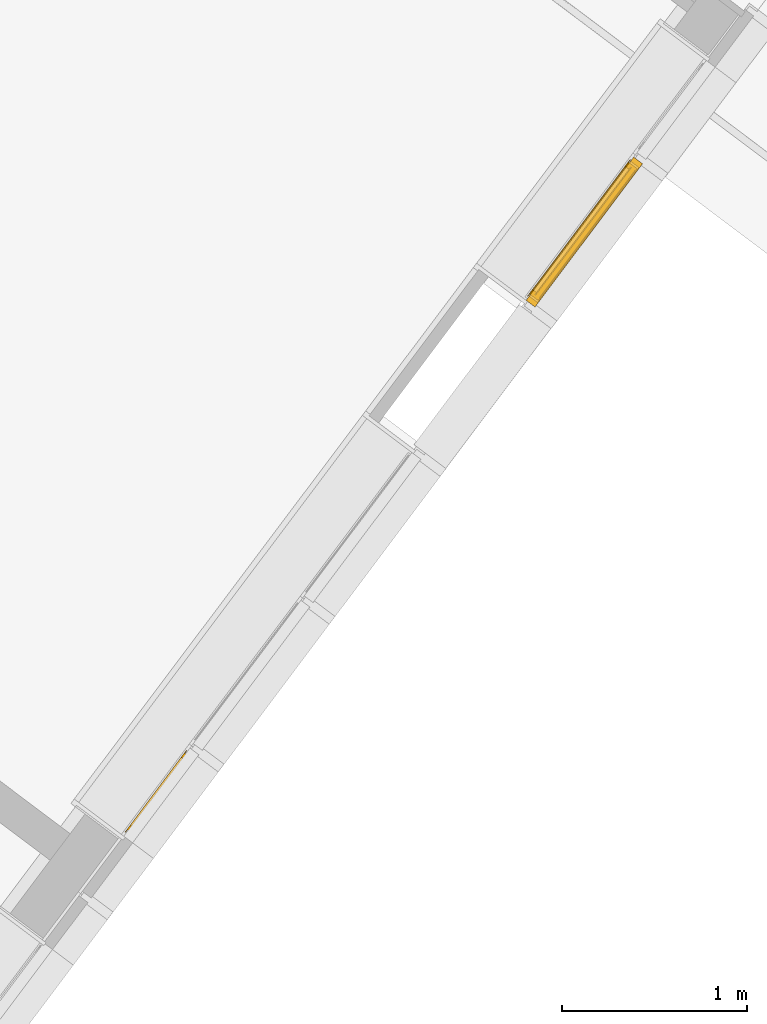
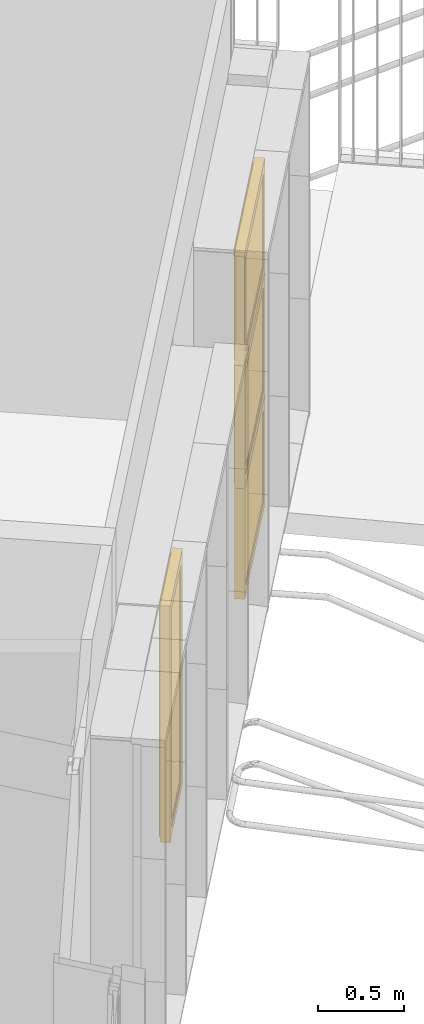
# One storey, part 228 of 243: 4 windows, 1 element without a shape of its own.
"""IFC2X3 building model written with IfcOpenShell, lengths in metres."""

from ifc_helpers import new_model, entity, si_unit, converted_unit, derived_unit, direction, frame, origin, place, context, subcontext, project, spatial, faceted_brep, source, transform, mapped, material, material_list, type_object, type_shapes, element, aggregate, save


model = new_model("IFC2X3")

# Units and contexts
model_context = context("Model", 3, precision=1e-05, world=origin(), true_north=direction((6.123031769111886e-17, 1.0)))
body_context = subcontext(model_context, "Body", "Model", "MODEL_VIEW")
ifc_project = project(units=[si_unit("LENGTHUNIT", "METRE"), si_unit("AREAUNIT", "SQUARE_METRE"), si_unit("VOLUMEUNIT", "CUBIC_METRE"), converted_unit("PLANEANGLEUNIT", "DEGREE", entity("IfcRatioMeasure", 0.017453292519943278), si_unit("PLANEANGLEUNIT", "RADIAN"), dimensions=[0, 0, 0, 0, 0, 0, 0]), si_unit("MASSUNIT", "GRAM", prefix="KILO"), derived_unit("MASSDENSITYUNIT", [(si_unit("MASSUNIT", "GRAM", prefix="KILO"), 1), (si_unit("LENGTHUNIT", "METRE"), -3)]), derived_unit("IONCONCENTRATIONUNIT", [(si_unit("MASSUNIT", "GRAM", prefix="KILO"), 1), (si_unit("LENGTHUNIT", "METRE"), -3)]), derived_unit("MOMENTOFINERTIAUNIT", [(si_unit("LENGTHUNIT", "METRE"), 4)]), si_unit("TIMEUNIT", "SECOND"), si_unit("FREQUENCYUNIT", "HERTZ"), si_unit("THERMODYNAMICTEMPERATUREUNIT", "DEGREE_CELSIUS"), derived_unit("THERMALTRANSMITTANCEUNIT", [(si_unit("MASSUNIT", "GRAM", prefix="KILO"), 1), (si_unit("THERMODYNAMICTEMPERATUREUNIT", "KELVIN"), -1), (si_unit("TIMEUNIT", "SECOND"), -3)]), derived_unit("THERMALCONDUCTANCEUNIT", [(si_unit("MASSUNIT", "GRAM", prefix="KILO"), 1), (si_unit("THERMODYNAMICTEMPERATUREUNIT", "KELVIN"), -1), (si_unit("TIMEUNIT", "SECOND"), -3), (si_unit("LENGTHUNIT", "METRE"), 1)]), derived_unit("VOLUMETRICFLOWRATEUNIT", [(si_unit("LENGTHUNIT", "METRE"), 3), (si_unit("TIMEUNIT", "SECOND"), -1)]), derived_unit("MASSFLOWRATEUNIT", [(si_unit("MASSUNIT", "GRAM", prefix="KILO"), 1), (si_unit("TIMEUNIT", "SECOND"), -1)]), derived_unit("ROTATIONALFREQUENCYUNIT", [(si_unit("TIMEUNIT", "SECOND"), -1)]), si_unit("ELECTRICCURRENTUNIT", "AMPERE"), si_unit("ELECTRICVOLTAGEUNIT", "VOLT"), si_unit("POWERUNIT", "WATT"), si_unit("FORCEUNIT", "NEWTON", prefix="KILO"), si_unit("ILLUMINANCEUNIT", "LUX"), si_unit("LUMINOUSFLUXUNIT", "LUMEN"), si_unit("LUMINOUSINTENSITYUNIT", "CANDELA"), derived_unit("USERDEFINED", [(si_unit("MASSUNIT", "GRAM", prefix="KILO"), -1), (si_unit("LENGTHUNIT", "METRE"), -2), (si_unit("TIMEUNIT", "SECOND"), 3), (si_unit("LUMINOUSFLUXUNIT", "LUMEN"), 1)]), derived_unit("USERDEFINED", [(si_unit("MASSUNIT", "GRAM", prefix="KILO"), 1), (si_unit("TIMEUNIT", "SECOND"), -3), (si_unit("LENGTHUNIT", "METRE"), 3), (si_unit("ELECTRICCURRENTUNIT", "AMPERE"), -2)]), derived_unit("SOUNDPOWERUNIT", [(si_unit("MASSUNIT", "GRAM", prefix="KILO"), 1), (si_unit("TIMEUNIT", "SECOND"), -3), (si_unit("LENGTHUNIT", "METRE"), 2)]), derived_unit("SOUNDPRESSUREUNIT", [(si_unit("MASSUNIT", "GRAM", prefix="KILO"), 1), (si_unit("LENGTHUNIT", "METRE"), -1), (si_unit("TIMEUNIT", "SECOND"), -2)]), derived_unit("LINEARVELOCITYUNIT", [(si_unit("LENGTHUNIT", "METRE"), 1), (si_unit("TIMEUNIT", "SECOND"), -1)]), si_unit("PRESSUREUNIT", "PASCAL"), derived_unit("USERDEFINED", [(si_unit("MASSUNIT", "GRAM", prefix="KILO"), 1), (si_unit("LENGTHUNIT", "METRE"), -2), (si_unit("TIMEUNIT", "SECOND"), -2)]), derived_unit("LINEARFORCEUNIT", [(si_unit("MASSUNIT", "GRAM", prefix="KILO"), 1), (si_unit("TIMEUNIT", "SECOND"), -2)]), derived_unit("PLANARFORCEUNIT", [(si_unit("MASSUNIT", "GRAM", prefix="KILO"), 1), (si_unit("LENGTHUNIT", "METRE"), -1), (si_unit("TIMEUNIT", "SECOND"), -2)]), derived_unit("SPECIFICHEATCAPACITYUNIT", [(si_unit("THERMODYNAMICTEMPERATUREUNIT", "KELVIN"), -1), (si_unit("LENGTHUNIT", "METRE"), 2), (si_unit("TIMEUNIT", "SECOND"), -2)]), derived_unit("HEATINGVALUEUNIT", [(si_unit("LENGTHUNIT", "METRE"), 2), (si_unit("TIMEUNIT", "SECOND"), -2)]), derived_unit("VAPORPERMEABILITYUNIT", [(si_unit("LENGTHUNIT", "METRE"), -1), (si_unit("TIMEUNIT", "SECOND"), 1)]), derived_unit("DYNAMICVISCOSITYUNIT", [(si_unit("MASSUNIT", "GRAM", prefix="KILO"), 1), (si_unit("TIMEUNIT", "SECOND"), -1), (si_unit("LENGTHUNIT", "METRE"), -1)]), derived_unit("THERMALEXPANSIONCOEFFICIENTUNIT", [(si_unit("THERMODYNAMICTEMPERATUREUNIT", "KELVIN"), -1)]), derived_unit("MODULUSOFELASTICITYUNIT", [(si_unit("MASSUNIT", "GRAM", prefix="KILO"), 1), (si_unit("LENGTHUNIT", "METRE"), -1), (si_unit("TIMEUNIT", "SECOND"), -2)]), derived_unit("ISOTHERMALMOISTURECAPACITYUNIT", [(si_unit("LENGTHUNIT", "METRE"), 3), (si_unit("MASSUNIT", "GRAM", prefix="KILO"), -1)]), derived_unit("MOISTUREDIFFUSIVITYUNIT", [(si_unit("TIMEUNIT", "SECOND"), -1), (si_unit("LENGTHUNIT", "METRE"), 2)])], contexts=[model_context])

# Site, building, storey
site_placement = place(None, frame((0.0, 0.0, 235.0), z_axis=(0.0, 0.0, 1.0), x_axis=(-0.7996477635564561, 0.6004693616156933, 0.0)))
site = spatial("IfcSite", under=ifc_project, at=site_placement, Name="Default", CompositionType="ELEMENT")
building_placement = place(site_placement, origin())
building = spatial("IfcBuilding", under=site, at=building_placement, CompositionType="ELEMENT")
storey_placement = place(building_placement, origin())
storey = spatial("IfcBuildingStorey", under=building, at=storey_placement, Name="P0- Escola", CompositionType="ELEMENT", Elevation=0.0)

# Curtain wall, windows
curtain_wall_type = type_object("IfcCurtainWallType", Name="Muro cortina:MC- EXT- MC2", PredefinedType="NOTDEFINED")
curtain_wall_placement = place(storey_placement, origin())
curtain_wall = element("IfcCurtainWall", 1, at=curtain_wall_placement, inside=storey, type_object=curtain_wall_type, Name="Muro cortina:MC- EXT- MC2", ObjectType="Muro cortina:MC- EXT- MC2")
ifc_material_1 = material(Name="_Vidre")
ifc_material_2 = material(Name="_Alumini- T1- Perfil")
ifc_material_list = material_list([ifc_material_1, ifc_material_2])
window_style_1 = type_object("IfcWindowStyle", Name="MC- Alu- Conjunt vidre fix- 62x60 cm:MC- Alu- Conjunt vidre fix- 62x60 cm", ConstructionType="NOTDEFINED", OperationType="NOTDEFINED", ParameterTakesPrecedence=False, Sizeable=False, material=ifc_material_list)
shared_shape_1 = source(origin(), body_context, "Body", "Brep", [
    faceted_brep([(0.4358113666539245, -0.007600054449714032, 0.048806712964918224), (0.4358113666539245, -0.03160022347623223, 0.048806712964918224), (-0.4358113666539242, -0.03160022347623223, 0.048806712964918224), (-0.4358113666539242, -0.007600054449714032, 0.048806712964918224), (0.4358113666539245, -0.007600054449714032, 0.7387000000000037), (-0.4358113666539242, -0.007600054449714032, 0.7387000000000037), (-0.4358113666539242, -0.03160022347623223, 0.7387000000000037), (0.4358113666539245, -0.03160022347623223, 0.7387000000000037)], [[[0, 1, 2, 3]], [[4, 0, 3, 5]], [[5, 3, 2, 6]], [[6, 2, 1, 7]], [[7, 1, 0, 4]], [[4, 5, 6, 7]]]),
    faceted_brep([(0.48461807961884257, -0.05999999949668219, 0.7877000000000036), (0.48461807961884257, -0.05999999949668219, 0.0), (0.48461807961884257, 0.0, 0.0), (0.48461807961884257, 0.0, 0.7877000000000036), (-0.48461807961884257, 0.0, 0.7877000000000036), (-0.48461807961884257, 0.0, 0.0), (0.42181126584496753, 0.0, 0.7248931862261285), (-0.4218112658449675, 0.0, 0.7248931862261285), (-0.42181126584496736, 0.0, 0.06280681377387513), (0.42181126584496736, 0.0, 0.06280681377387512), (-0.48461807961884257, -0.05999999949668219, 0.0), (-0.48461807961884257, -0.05999999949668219, 0.7877000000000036), (-0.4218141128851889, -0.05999999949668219, 0.72489603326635), (0.4218141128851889, -0.05999999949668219, 0.72489603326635), (0.4218141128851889, -0.05999999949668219, 0.0628039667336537), (-0.4218141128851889, -0.05999999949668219, 0.0628039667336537), (0.42181411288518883, -0.03160022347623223, 0.7248960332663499), (0.4218141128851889, -0.03160022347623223, 0.0628039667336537), (-0.4218141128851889, -0.03160022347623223, 0.0628039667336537), (-0.4218141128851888, -0.03160022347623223, 0.7248960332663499), (-0.43581136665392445, -0.03160022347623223, 0.7388932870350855), (0.43581136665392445, -0.03160022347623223, 0.7388932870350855), (0.43581136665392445, -0.03160022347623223, 0.048806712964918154), (-0.43581136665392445, -0.03160022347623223, 0.04880671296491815), (0.43581136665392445, -0.007600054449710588, 0.7388932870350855), (0.43581136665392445, -0.007600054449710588, 0.04880671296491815), (-0.43581136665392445, -0.007600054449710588, 0.048806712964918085), (-0.43581136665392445, -0.007600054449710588, 0.7388932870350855), (-0.4218112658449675, -0.007600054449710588, 0.7248931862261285), (0.4218112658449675, -0.007600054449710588, 0.7248931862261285), (0.4218112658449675, -0.007600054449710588, 0.06280681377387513), (-0.4218112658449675, -0.007600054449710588, 0.06280681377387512)], [[[0, 1, 2, 3]], [[4, 3, 2, 5], [6, 7, 8, 9]], [[1, 10, 5, 2]], [[0, 11, 10, 1], [12, 13, 14, 15]], [[16, 17, 14, 13]], [[17, 18, 15, 14]], [[16, 19, 18, 17], [20, 21, 22, 23]], [[24, 25, 22, 21]], [[25, 26, 23, 22]], [[24, 27, 26, 25], [28, 29, 30, 31]], [[6, 9, 30, 29]], [[9, 8, 31, 30]], [[10, 11, 4, 5]], [[18, 19, 12, 15]], [[26, 27, 20, 23]], [[8, 7, 28, 31]], [[11, 0, 3, 4]], [[19, 16, 13, 12]], [[27, 24, 21, 20]], [[7, 6, 29, 28]]], outer=[[True], [True, False], [True], [True, False], [True], [True], [False, True], [True], [True], [True, False], [True], [True], [True], [True], [True], [True], [True], [True], [True], [True]]),
])
type_shapes(window_style_1, [shared_shape_1])
window_1_placement = place(curtain_wall_placement, frame((28.345147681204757, -35.91480983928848, 0.03229999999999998), z_axis=(0.0, 0.0, 1.0), x_axis=(0.0, 1.0, 0.0)))
window_1 = element("IfcWindow", 2, at=window_1_placement, type_object=window_style_1, material=ifc_material_list, Name="MC- Alu- Conjunt vidre fix- 62x60 cm:MC- Alu- Conjunt vidre fix- 62x60 cm", ObjectType="MC- Alu- Conjunt vidre fix- 62x60 cm:MC- Alu- Conjunt vidre fix- 62x60 cm", OverallHeight=0.7877000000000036, OverallWidth=0.9692361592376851, context=body_context, shape_type="MappedRepresentation", body=[
    mapped(shared_shape_1, transform((0.0, 0.0, 0.0), scale=1.0)),
])
window_style_2 = type_object("IfcWindowStyle", Name="MC- Alu- Conjunt finestra basculant- 68x68 cm:MC- Alu- Conjunt finestra basculant- 68x68 cm", ConstructionType="NOTDEFINED", OperationType="NOTDEFINED", ParameterTakesPrecedence=False, Sizeable=False, material=ifc_material_list)
shared_shape_2 = source(origin(), body_context, "Body", "Brep", [
    faceted_brep([(0.2461617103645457, -0.03559830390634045, 0.051999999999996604), (-0.24616171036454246, -0.0355983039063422, 0.051999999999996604), (-0.24616171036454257, -0.011598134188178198, 0.051999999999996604), (0.24616171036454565, -0.011598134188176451, 0.051999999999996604), (0.2461617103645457, -0.03559830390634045, 1.6315527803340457), (0.24616171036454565, -0.011598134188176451, 1.6315527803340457), (-0.24616171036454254, -0.011598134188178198, 1.6315527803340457), (-0.24616171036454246, -0.0355983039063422, 1.6315527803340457)], [[[0, 1, 2, 3]], [[4, 0, 3, 5]], [[5, 3, 2, 6]], [[6, 2, 1, 7]], [[7, 1, 0, 4]], [[4, 5, 6, 7]]]),
    faceted_brep([(-0.2304608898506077, -0.009998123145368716, 1.615851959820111), (-0.23046088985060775, -0.009998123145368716, 0.06789804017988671), (-0.23046088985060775, -0.007998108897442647, 0.06789804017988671), (-0.23046088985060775, -0.007998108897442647, 1.6158519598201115), (-0.25935893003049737, -0.007998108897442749, 1.644750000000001), (0.2593589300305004, -0.007998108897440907, 1.644750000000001), (0.2593589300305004, -0.007998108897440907, 0.03899999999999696), (-0.25935893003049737, -0.007998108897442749, 0.03899999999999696), (0.2304608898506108, -0.007998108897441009, 1.6158519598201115), (0.2304608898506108, -0.007998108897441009, 0.06789804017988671), (0.2304608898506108, -0.00999812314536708, 0.06789804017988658), (0.23046088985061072, -0.00999812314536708, 1.615851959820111), (0.24616171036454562, -0.009998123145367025, 1.6315527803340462), (-0.24616171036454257, -0.009998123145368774, 1.6315527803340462), (-0.24616171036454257, -0.009998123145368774, 0.05219721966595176), (0.24616171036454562, -0.009998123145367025, 0.05219721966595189), (-0.24616171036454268, -0.040799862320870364, 1.6315527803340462), (-0.24616171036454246, -0.04079986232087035, 0.05219721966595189), (0.24616171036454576, -0.04079986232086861, 0.05219721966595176), (0.24616171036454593, -0.04079986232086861, 1.6315527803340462), (0.2304608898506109, -0.040799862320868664, 1.6158519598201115), (-0.23046088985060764, -0.0407998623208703, 1.6158519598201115), (-0.23046088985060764, -0.0407998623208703, 0.06789804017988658), (0.2304608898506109, -0.040799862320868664, 0.06789804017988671), (-0.23046088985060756, -0.06800005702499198, 1.6158519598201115), (-0.23046088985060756, -0.06800005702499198, 0.06789804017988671), (0.23046088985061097, -0.06800005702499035, 0.06789804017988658), (0.230460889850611, -0.06800005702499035, 1.6158519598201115), (0.2768628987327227, -0.0680000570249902, 1.662253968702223), (-0.27686289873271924, -0.06800005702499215, 1.662253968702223), (-0.27686289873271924, -0.06800005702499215, 0.021496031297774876), (0.2768628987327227, -0.0680000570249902, 0.021496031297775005), (-0.27686289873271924, -0.06450003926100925, 1.662253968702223), (-0.27686289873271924, -0.06450003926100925, 0.021496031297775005), (0.2768628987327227, -0.06450003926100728, 0.021496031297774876), (0.2768628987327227, -0.06450003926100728, 1.662253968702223), (0.25935893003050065, -0.06450003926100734, 1.644750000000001), (-0.25935893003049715, -0.06450003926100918, 1.644750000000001), (-0.25935893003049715, -0.06450003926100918, 0.03899999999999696), (0.25935893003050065, -0.06450003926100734, 0.03899999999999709)], [[[0, 1, 2, 3]], [[4, 5, 6, 7], [8, 3, 2, 9]], [[1, 10, 9, 2]], [[0, 11, 10, 1], [12, 13, 14, 15]], [[16, 17, 14, 13]], [[17, 18, 15, 14]], [[16, 19, 18, 17], [20, 21, 22, 23]], [[24, 25, 22, 21]], [[25, 26, 23, 22]], [[24, 27, 26, 25], [28, 29, 30, 31]], [[32, 33, 30, 29]], [[33, 34, 31, 30]], [[32, 35, 34, 33], [36, 37, 38, 39]], [[4, 7, 38, 37]], [[7, 6, 39, 38]], [[10, 11, 8, 9]], [[18, 19, 12, 15]], [[26, 27, 20, 23]], [[34, 35, 28, 31]], [[6, 5, 36, 39]], [[11, 0, 3, 8]], [[19, 16, 13, 12]], [[27, 24, 21, 20]], [[35, 32, 29, 28]], [[5, 4, 37, 36]]], outer=[[True], [True, False], [True], [False, True], [True], [True], [True, False], [True], [True], [False, True], [True], [True], [True, False], [True], [True], [True], [True], [True], [True], [True], [True], [True], [True], [True], [True]]),
    faceted_brep([(0.23544318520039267, 0.0, 1.6209431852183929), (0.2354431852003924, 0.0, 0.06280681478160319), (0.2354431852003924, -0.0040000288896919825, 0.06280681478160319), (0.23544318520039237, -0.0040000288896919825, 1.6209431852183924), (-0.23544318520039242, -0.0040000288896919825, 1.6209431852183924), (-0.2354431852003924, -0.0040000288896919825, 0.06280681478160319), (0.27084980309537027, -0.0040000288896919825, 1.6563498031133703), (-0.27084980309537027, -0.0040000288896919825, 1.6563498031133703), (-0.27084980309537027, -0.0040000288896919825, 0.02740019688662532), (0.27084980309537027, -0.0040000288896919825, 0.027400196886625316), (-0.2354431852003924, 0.0, 0.06280681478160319), (-0.23544318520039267, 0.0, 1.6209431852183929), (-0.2982499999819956, 0.0, 1.6837499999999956), (0.2982499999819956, 0.0, 1.6837499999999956), (0.2982499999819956, 0.0, 0.0), (-0.2982499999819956, 0.0, 0.0), (0.2982499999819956, -0.05999999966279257, 1.6837499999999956), (0.2982499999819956, -0.05999999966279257, 0.0), (-0.2982499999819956, -0.05999999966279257, 0.0), (-0.2982499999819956, -0.05999999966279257, 1.6837499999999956), (-0.27084980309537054, -0.05999999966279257, 1.6563498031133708), (0.27084980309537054, -0.05999999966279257, 1.6563498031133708), (0.27084980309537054, -0.05999999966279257, 0.02740019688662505), (-0.27084980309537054, -0.05999999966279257, 0.027400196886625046)], [[[0, 1, 2, 3]], [[4, 3, 2, 5], [6, 7, 8, 9]], [[1, 10, 5, 2]], [[0, 11, 10, 1], [12, 13, 14, 15]], [[16, 17, 14, 13]], [[17, 18, 15, 14]], [[16, 19, 18, 17], [20, 21, 22, 23]], [[6, 9, 22, 21]], [[9, 8, 23, 22]], [[10, 11, 4, 5]], [[18, 19, 12, 15]], [[8, 7, 20, 23]], [[11, 0, 3, 4]], [[19, 16, 13, 12]], [[7, 6, 21, 20]]], outer=[[True], [False, True], [True], [False, True], [True], [True], [True, False], [True], [True], [True], [True], [True], [True], [True], [True]]),
])
type_shapes(window_style_2, [shared_shape_2])
window_2_placement = place(curtain_wall_placement, frame((28.345147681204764, -32.10194175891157, 0.8200000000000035), z_axis=(0.0, 0.0, 1.0), x_axis=(0.0, 1.0, 0.0)))
window_2 = element("IfcWindow", 3, at=window_2_placement, type_object=window_style_2, material=ifc_material_list, Name="MC- Alu- Conjunt finestra basculant- 68x68 cm:MC- Alu- Conjunt finestra basculant- 68x68 cm", ObjectType="MC- Alu- Conjunt finestra basculant- 68x68 cm:MC- Alu- Conjunt finestra basculant- 68x68 cm", OverallHeight=1.6837499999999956, OverallWidth=0.5964999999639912, context=body_context, shape_type="MappedRepresentation", body=[
    mapped(shared_shape_2, transform((0.0, 0.0, 0.0), scale=1.0)),
])
window_style_3 = type_object("IfcWindowStyle", Name="MC- Alu- Conjunt finestra basculant- 68x68 cm:MC- Alu- Conjunt finestra basculant- 68x68 cm", ConstructionType="NOTDEFINED", OperationType="NOTDEFINED", ParameterTakesPrecedence=False, Sizeable=False, material=ifc_material_list)
shared_shape_3 = source(origin(), body_context, "Body", "Brep", [
    faceted_brep([(0.4325297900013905, -0.035598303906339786, 0.051999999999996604), (-0.4325297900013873, -0.03559830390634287, 0.051999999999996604), (-0.43252979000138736, -0.011598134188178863, 0.051999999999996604), (0.4325297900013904, -0.011598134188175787, 0.051999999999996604), (0.4325297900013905, -0.035598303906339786, 0.8228027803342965), (0.4325297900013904, -0.011598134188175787, 0.8228027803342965), (-0.4325297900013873, -0.011598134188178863, 0.8228027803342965), (-0.4325297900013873, -0.03559830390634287, 0.8228027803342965)], [[[0, 1, 2, 3]], [[4, 0, 3, 5]], [[5, 3, 2, 6]], [[6, 2, 1, 7]], [[7, 1, 0, 4]], [[4, 5, 6, 7]]]),
    faceted_brep([(-0.4168289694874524, -0.009998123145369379, 0.8071019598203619), (-0.4168289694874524, -0.00999812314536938, 0.06789804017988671), (-0.4168289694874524, -0.00799810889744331, 0.06789804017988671), (-0.4168289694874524, -0.00799810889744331, 0.8071019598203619), (-0.44572700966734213, -0.007998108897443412, 0.8360000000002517), (0.44572700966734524, -0.007998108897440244, 0.8360000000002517), (0.44572700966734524, -0.007998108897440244, 0.03899999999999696), (-0.44572700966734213, -0.007998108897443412, 0.03899999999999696), (0.4168289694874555, -0.007998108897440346, 0.8071019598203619), (0.4168289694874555, -0.007998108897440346, 0.06789804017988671), (0.4168289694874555, -0.009998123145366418, 0.06789804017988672), (0.4168289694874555, -0.009998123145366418, 0.8071019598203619), (0.43252979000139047, -0.00999812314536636, 0.8228027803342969), (-0.43252979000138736, -0.009998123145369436, 0.8228027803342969), (-0.43252979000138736, -0.009998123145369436, 0.05219721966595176), (0.43252979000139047, -0.00999812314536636, 0.052197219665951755), (-0.43252979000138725, -0.04079986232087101, 0.8228027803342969), (-0.43252979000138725, -0.04079986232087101, 0.052197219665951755), (0.4325297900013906, -0.04079986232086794, 0.05219721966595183), (0.4325297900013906, -0.04079986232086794, 0.8228027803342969), (0.4168289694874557, -0.040799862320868, 0.8071019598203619), (-0.4168289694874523, -0.04079986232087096, 0.8071019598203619), (-0.4168289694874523, -0.04079986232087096, 0.06789804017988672), (0.4168289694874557, -0.040799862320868, 0.06789804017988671), (-0.4168289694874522, -0.06800005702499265, 0.8071019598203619), (-0.4168289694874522, -0.06800005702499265, 0.06789804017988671), (0.4168289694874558, -0.0680000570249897, 0.06789804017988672), (0.41682896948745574, -0.0680000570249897, 0.8071019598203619), (0.46323097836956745, -0.06800005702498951, 0.8535039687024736), (-0.4632309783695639, -0.06800005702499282, 0.8535039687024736), (-0.4632309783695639, -0.06800005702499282, 0.021496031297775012), (0.46323097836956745, -0.06800005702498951, 0.021496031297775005), (-0.4632309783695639, -0.0645000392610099, 0.8535039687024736), (-0.4632309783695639, -0.0645000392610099, 0.021496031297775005), (0.46323097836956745, -0.06450003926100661, 0.02149603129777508), (0.46323097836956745, -0.06450003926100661, 0.8535039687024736), (0.44572700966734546, -0.06450003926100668, 0.8360000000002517), (-0.44572700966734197, -0.06450003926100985, 0.8360000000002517), (-0.44572700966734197, -0.06450003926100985, 0.03899999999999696), (0.44572700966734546, -0.06450003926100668, 0.038999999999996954)], [[[0, 1, 2, 3]], [[4, 5, 6, 7], [8, 3, 2, 9]], [[1, 10, 9, 2]], [[0, 11, 10, 1], [12, 13, 14, 15]], [[16, 17, 14, 13]], [[17, 18, 15, 14]], [[16, 19, 18, 17], [20, 21, 22, 23]], [[24, 25, 22, 21]], [[25, 26, 23, 22]], [[24, 27, 26, 25], [28, 29, 30, 31]], [[32, 33, 30, 29]], [[33, 34, 31, 30]], [[32, 35, 34, 33], [36, 37, 38, 39]], [[4, 7, 38, 37]], [[7, 6, 39, 38]], [[10, 11, 8, 9]], [[18, 19, 12, 15]], [[26, 27, 20, 23]], [[34, 35, 28, 31]], [[6, 5, 36, 39]], [[11, 0, 3, 8]], [[19, 16, 13, 12]], [[27, 24, 21, 20]], [[35, 32, 29, 28]], [[5, 4, 37, 36]]], outer=[[True], [True, False], [True], [False, True], [True], [True], [True, False], [True], [True], [False, True], [True], [True], [True, False], [True], [True], [True], [True], [True], [True], [True], [True], [True], [True], [True], [True]]),
    faceted_brep([(0.42181126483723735, 0.0, 0.8121931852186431), (0.42181126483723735, 0.0, 0.06280681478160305), (0.42181126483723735, -0.0040000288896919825, 0.06280681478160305), (0.42181126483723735, -0.0040000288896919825, 0.8121931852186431), (-0.42181126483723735, -0.0040000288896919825, 0.8121931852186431), (-0.42181126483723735, -0.0040000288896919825, 0.06280681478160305), (0.45721788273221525, -0.0040000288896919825, 0.8475998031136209), (-0.45721788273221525, -0.0040000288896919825, 0.8475998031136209), (-0.45721788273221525, -0.0040000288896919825, 0.027400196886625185), (0.45721788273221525, -0.0040000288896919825, 0.02740019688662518), (-0.42181126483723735, 0.0, 0.06280681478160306), (-0.42181126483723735, 0.0, 0.8121931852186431), (-0.4846180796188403, 0.0, 0.875000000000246), (0.4846180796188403, 0.0, 0.875000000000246), (0.4846180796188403, 0.0, 0.0), (-0.4846180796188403, 0.0, 0.0), (0.4846180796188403, -0.05999999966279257, 0.875000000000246), (0.4846180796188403, -0.05999999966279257, 0.0), (-0.4846180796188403, -0.05999999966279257, 0.0), (-0.4846180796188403, -0.05999999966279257, 0.875000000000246), (-0.45721788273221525, -0.05999999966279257, 0.8475998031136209), (0.45721788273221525, -0.05999999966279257, 0.8475998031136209), (0.45721788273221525, -0.05999999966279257, 0.027400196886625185), (-0.45721788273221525, -0.05999999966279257, 0.02740019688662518)], [[[0, 1, 2, 3]], [[4, 3, 2, 5], [6, 7, 8, 9]], [[1, 10, 5, 2]], [[0, 11, 10, 1], [12, 13, 14, 15]], [[16, 17, 14, 13]], [[17, 18, 15, 14]], [[16, 19, 18, 17], [20, 21, 22, 23]], [[6, 9, 22, 21]], [[9, 8, 23, 22]], [[10, 11, 4, 5]], [[18, 19, 12, 15]], [[8, 7, 20, 23]], [[11, 0, 3, 4]], [[19, 16, 13, 12]], [[7, 6, 21, 20]]], outer=[[True], [False, True], [True], [False, True], [True], [True], [True, False], [True], [True], [True], [True], [True], [True], [True], [True]]),
])
type_shapes(window_style_3, [shared_shape_3])
window_3_placement = place(curtain_wall_placement, frame((28.345147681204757, -35.91480983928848, 0.8200000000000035), z_axis=(0.0, 0.0, 1.0), x_axis=(0.0, 1.0, 0.0)))
window_3 = element("IfcWindow", 4, at=window_3_placement, type_object=window_style_3, material=ifc_material_list, Name="MC- Alu- Conjunt finestra basculant- 68x68 cm:MC- Alu- Conjunt finestra basculant- 68x68 cm", ObjectType="MC- Alu- Conjunt finestra basculant- 68x68 cm:MC- Alu- Conjunt finestra basculant- 68x68 cm", OverallHeight=0.8750000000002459, OverallWidth=0.9692361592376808, context=body_context, shape_type="MappedRepresentation", body=[
    mapped(shared_shape_3, transform((0.0, 0.0, 0.0), scale=1.0)),
])
window_style_4 = type_object("IfcWindowStyle", Name="MC- Alu- Conjunt finestra basculant- 68x68 cm:MC- Alu- Conjunt finestra basculant- 68x68 cm", ConstructionType="NOTDEFINED", OperationType="NOTDEFINED", ParameterTakesPrecedence=False, Sizeable=False, material=ifc_material_list)
shared_shape_4 = source(origin(), body_context, "Body", "Brep", [
    faceted_brep([(0.4325297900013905, -0.035598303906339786, 0.051999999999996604), (-0.4325297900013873, -0.03559830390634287, 0.051999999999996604), (-0.43252979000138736, -0.011598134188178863, 0.051999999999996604), (0.4325297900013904, -0.011598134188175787, 0.051999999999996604), (0.4325297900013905, -0.035598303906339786, 0.7565527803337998), (0.4325297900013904, -0.011598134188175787, 0.7565527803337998), (-0.4325297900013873, -0.011598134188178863, 0.7565527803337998), (-0.4325297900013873, -0.03559830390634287, 0.7565527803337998)], [[[0, 1, 2, 3]], [[4, 0, 3, 5]], [[5, 3, 2, 6]], [[6, 2, 1, 7]], [[7, 1, 0, 4]], [[4, 5, 6, 7]]]),
    faceted_brep([(-0.4168289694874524, -0.009998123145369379, 0.7408519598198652), (-0.4168289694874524, -0.00999812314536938, 0.06789804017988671), (-0.4168289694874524, -0.00799810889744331, 0.06789804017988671), (-0.4168289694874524, -0.00799810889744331, 0.7408519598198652), (-0.44572700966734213, -0.007998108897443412, 0.7697499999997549), (0.44572700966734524, -0.007998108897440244, 0.7697499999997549), (0.44572700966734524, -0.007998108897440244, 0.03899999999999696), (-0.44572700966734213, -0.007998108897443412, 0.03899999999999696), (0.4168289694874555, -0.007998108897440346, 0.7408519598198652), (0.4168289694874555, -0.007998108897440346, 0.06789804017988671), (0.4168289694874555, -0.009998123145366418, 0.06789804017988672), (0.4168289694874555, -0.009998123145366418, 0.7408519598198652), (0.43252979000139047, -0.00999812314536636, 0.7565527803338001), (-0.43252979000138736, -0.009998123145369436, 0.7565527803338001), (-0.43252979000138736, -0.009998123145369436, 0.05219721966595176), (0.43252979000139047, -0.00999812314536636, 0.052197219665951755), (-0.43252979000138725, -0.04079986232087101, 0.7565527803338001), (-0.43252979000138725, -0.04079986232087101, 0.052197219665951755), (0.4325297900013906, -0.04079986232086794, 0.05219721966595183), (0.4325297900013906, -0.04079986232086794, 0.7565527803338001), (0.4168289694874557, -0.040799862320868, 0.7408519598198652), (-0.4168289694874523, -0.04079986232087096, 0.7408519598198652), (-0.4168289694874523, -0.04079986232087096, 0.06789804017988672), (0.4168289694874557, -0.040799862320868, 0.06789804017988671), (-0.4168289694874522, -0.06800005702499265, 0.7408519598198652), (-0.4168289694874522, -0.06800005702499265, 0.06789804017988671), (0.4168289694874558, -0.0680000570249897, 0.06789804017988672), (0.41682896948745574, -0.0680000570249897, 0.7408519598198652), (0.46323097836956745, -0.06800005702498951, 0.7872539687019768), (-0.4632309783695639, -0.06800005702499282, 0.7872539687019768), (-0.4632309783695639, -0.06800005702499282, 0.021496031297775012), (0.46323097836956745, -0.06800005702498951, 0.021496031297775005), (-0.4632309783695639, -0.0645000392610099, 0.7872539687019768), (-0.4632309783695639, -0.0645000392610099, 0.021496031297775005), (0.46323097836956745, -0.06450003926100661, 0.02149603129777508), (0.46323097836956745, -0.06450003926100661, 0.7872539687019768), (0.44572700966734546, -0.06450003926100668, 0.7697499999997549), (-0.44572700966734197, -0.06450003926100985, 0.7697499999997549), (-0.44572700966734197, -0.06450003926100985, 0.03899999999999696), (0.44572700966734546, -0.06450003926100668, 0.038999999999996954)], [[[0, 1, 2, 3]], [[4, 5, 6, 7], [8, 3, 2, 9]], [[1, 10, 9, 2]], [[0, 11, 10, 1], [12, 13, 14, 15]], [[16, 17, 14, 13]], [[17, 18, 15, 14]], [[16, 19, 18, 17], [20, 21, 22, 23]], [[24, 25, 22, 21]], [[25, 26, 23, 22]], [[24, 27, 26, 25], [28, 29, 30, 31]], [[32, 33, 30, 29]], [[33, 34, 31, 30]], [[32, 35, 34, 33], [36, 37, 38, 39]], [[4, 7, 38, 37]], [[7, 6, 39, 38]], [[10, 11, 8, 9]], [[18, 19, 12, 15]], [[26, 27, 20, 23]], [[34, 35, 28, 31]], [[6, 5, 36, 39]], [[11, 0, 3, 8]], [[19, 16, 13, 12]], [[27, 24, 21, 20]], [[35, 32, 29, 28]], [[5, 4, 37, 36]]], outer=[[True], [True, False], [True], [False, True], [True], [True], [True, False], [True], [True], [False, True], [True], [True], [True, False], [True], [True], [True], [True], [True], [True], [True], [True], [True], [True], [True], [True]]),
    faceted_brep([(0.42181126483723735, 0.0, 0.7459431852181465), (0.42181126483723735, 0.0, 0.06280681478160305), (0.42181126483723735, -0.0040000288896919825, 0.06280681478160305), (0.42181126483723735, -0.0040000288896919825, 0.7459431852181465), (-0.42181126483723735, -0.0040000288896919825, 0.7459431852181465), (-0.42181126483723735, -0.0040000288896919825, 0.06280681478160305), (0.45721788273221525, -0.0040000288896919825, 0.7813498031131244), (-0.45721788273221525, -0.0040000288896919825, 0.7813498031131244), (-0.45721788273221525, -0.0040000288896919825, 0.027400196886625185), (0.45721788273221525, -0.0040000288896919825, 0.02740019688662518), (-0.42181126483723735, 0.0, 0.06280681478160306), (-0.42181126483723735, 0.0, 0.7459431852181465), (-0.4846180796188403, 0.0, 0.8087499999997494), (0.4846180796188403, 0.0, 0.8087499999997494), (0.4846180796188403, 0.0, 0.0), (-0.4846180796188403, 0.0, 0.0), (0.4846180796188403, -0.05999999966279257, 0.8087499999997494), (0.4846180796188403, -0.05999999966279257, 0.0), (-0.4846180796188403, -0.05999999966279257, 0.0), (-0.4846180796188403, -0.05999999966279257, 0.8087499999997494), (-0.45721788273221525, -0.05999999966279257, 0.7813498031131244), (0.45721788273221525, -0.05999999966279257, 0.7813498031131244), (0.45721788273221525, -0.05999999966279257, 0.027400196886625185), (-0.45721788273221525, -0.05999999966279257, 0.02740019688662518)], [[[0, 1, 2, 3]], [[4, 3, 2, 5], [6, 7, 8, 9]], [[1, 10, 5, 2]], [[0, 11, 10, 1], [12, 13, 14, 15]], [[16, 17, 14, 13]], [[17, 18, 15, 14]], [[16, 19, 18, 17], [20, 21, 22, 23]], [[6, 9, 22, 21]], [[9, 8, 23, 22]], [[10, 11, 4, 5]], [[18, 19, 12, 15]], [[8, 7, 20, 23]], [[11, 0, 3, 4]], [[19, 16, 13, 12]], [[7, 6, 21, 20]]], outer=[[True], [False, True], [True], [False, True], [True], [True], [True, False], [True], [True], [True], [True], [True], [True], [True], [True]]),
])
type_shapes(window_style_4, [shared_shape_4])
window_4_placement = place(curtain_wall_placement, frame((28.345147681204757, -35.914809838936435, 1.6950000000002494), z_axis=(0.0, 0.0, 1.0), x_axis=(0.0, 1.0, 0.0)))
window_4 = element("IfcWindow", 5, at=window_4_placement, type_object=window_style_4, material=ifc_material_list, Name="MC- Alu- Conjunt finestra basculant- 68x68 cm:MC- Alu- Conjunt finestra basculant- 68x68 cm", ObjectType="MC- Alu- Conjunt finestra basculant- 68x68 cm:MC- Alu- Conjunt finestra basculant- 68x68 cm", OverallHeight=0.8087499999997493, OverallWidth=0.9692361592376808, context=body_context, shape_type="MappedRepresentation", body=[
    mapped(shared_shape_4, transform((0.0, 0.0, 0.0), scale=1.0)),
])
aggregate(curtain_wall, [window_1, window_2, window_3, window_4])

save(model, "model.ifc")
